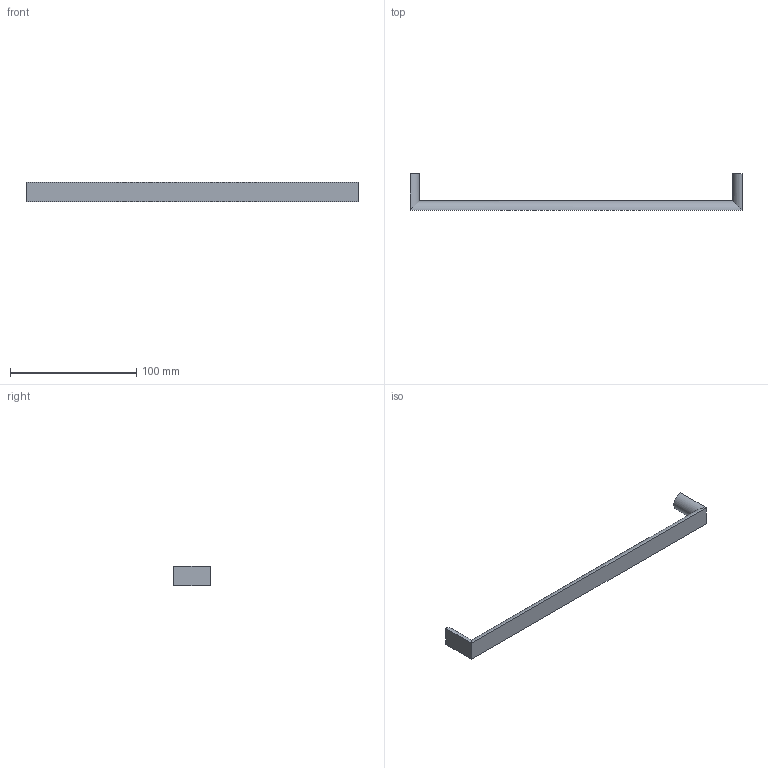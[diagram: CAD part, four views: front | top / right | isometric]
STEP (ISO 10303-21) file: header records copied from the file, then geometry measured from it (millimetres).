
FILE_DESCRIPTION( ( '' ), '1' );
FILE_NAME( 'C:/Documents and Settings/Sachin/Desktop/Sheet 10_1/stp/9995484.stp', '2013-10-22T08:40:41', ( '' ), ( '' ), ' ', ' ', ' ' );
FILE_SCHEMA( ( 'CONFIG_CONTROL_DESIGN' ) );
Length unit declared in the file: millimetre
Products named in the file (1): 1
Bounding box: 263 x 29 x 15.5 mm (x, y, z)
Volume: 27601.7 mm3; surface area: 12658.1 mm2
Topology: 1 solids, 1 shells, 14 faces, 26 edges, 16 vertices
Faces by surface type: cylinder 7, plane 7
Entity records: 394 total; most frequent: DIRECTION 68, CARTESIAN_POINT 57, ORIENTED_EDGE 52, AXIS2_PLACEMENT_3D 27, EDGE_CURVE 26, EDGE_LOOP 16, VERTEX_POINT 16, ADVANCED_FACE 14
